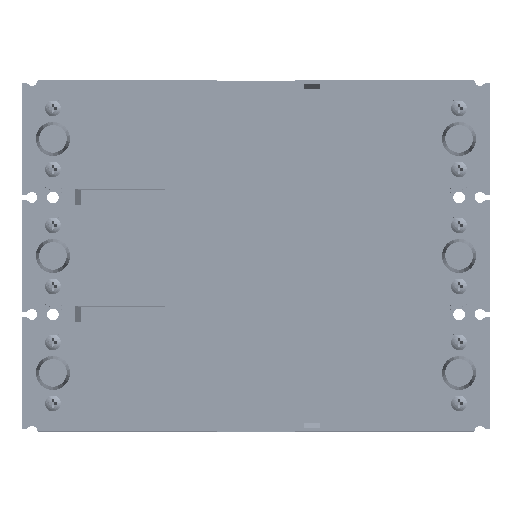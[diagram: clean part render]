
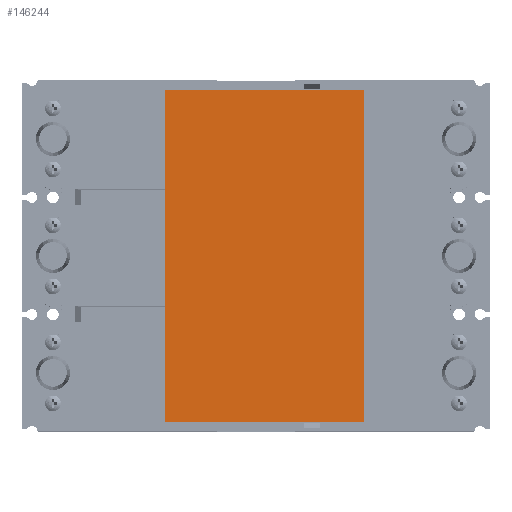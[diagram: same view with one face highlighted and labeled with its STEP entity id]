
A CAD part, top view. The second image highlights one B-rep face of the part: STEP entity #146244.
In plain terms, the highlighted planar face has unit normal (0, 0, 1) as drawn and (0, -1, 0) by its records, which use the part's own axes.
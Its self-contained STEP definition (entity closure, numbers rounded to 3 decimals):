
#146129=DIRECTION('',(0.,0.,-1.));
#146130=VECTOR('',#146129,59.5);
#146131=CARTESIAN_POINT('',(-99.5,0.,59.5));
#146132=LINE('',#146131,#146130);
#146137=DIRECTION('',(0.,0.,-1.));
#146138=VECTOR('',#146137,59.5);
#146139=CARTESIAN_POINT('',(-99.5,0.,0.));
#146140=LINE('',#146139,#146138);
#146145=DIRECTION('',(1.,0.,0.));
#146146=VECTOR('',#146145,199.);
#146147=CARTESIAN_POINT('',(-99.5,0.,-59.5));
#146148=LINE('',#146147,#146146);
#146153=DIRECTION('',(0.,0.,1.));
#146154=VECTOR('',#146153,59.5);
#146155=CARTESIAN_POINT('',(99.5,0.,-59.5));
#146156=LINE('',#146155,#146154);
#146161=DIRECTION('',(0.,0.,1.));
#146162=VECTOR('',#146161,59.5);
#146163=CARTESIAN_POINT('',(99.5,0.,0.));
#146164=LINE('',#146163,#146162);
#146169=DIRECTION('',(-1.,0.,0.));
#146170=VECTOR('',#146169,199.);
#146171=CARTESIAN_POINT('',(99.5,0.,59.5));
#146172=LINE('',#146171,#146170);
#146201=CARTESIAN_POINT('',(-99.5,0.,59.5));
#146202=CARTESIAN_POINT('',(-99.5,0.,0.));
#146203=VERTEX_POINT('',#146201);
#146204=VERTEX_POINT('',#146202);
#146205=CARTESIAN_POINT('',(99.5,0.,59.5));
#146206=VERTEX_POINT('',#146205);
#146207=CARTESIAN_POINT('',(99.5,0.,0.));
#146208=VERTEX_POINT('',#146207);
#146209=CARTESIAN_POINT('',(99.5,0.,-59.5));
#146210=VERTEX_POINT('',#146209);
#146211=CARTESIAN_POINT('',(-99.5,0.,-59.5));
#146212=VERTEX_POINT('',#146211);
#146225=CARTESIAN_POINT('',(0.,0.,0.));
#146226=DIRECTION('',(0.,1.,0.));
#146227=DIRECTION('',(1.,0.,0.));
#146228=AXIS2_PLACEMENT_3D('',#146225,#146226,#146227);
#146229=PLANE('',#146228);
#146231=ORIENTED_EDGE('',*,*,#146230,.F.);
#146233=ORIENTED_EDGE('',*,*,#146232,.F.);
#146235=ORIENTED_EDGE('',*,*,#146234,.F.);
#146237=ORIENTED_EDGE('',*,*,#146236,.F.);
#146239=ORIENTED_EDGE('',*,*,#146238,.F.);
#146241=ORIENTED_EDGE('',*,*,#146240,.F.);
#146242=EDGE_LOOP('',(#146231,#146233,#146235,#146237,#146239,#146241));
#146243=FACE_OUTER_BOUND('',#146242,.F.);
#146244=ADVANCED_FACE('',(#146243),#146229,.F.);
#146230=EDGE_CURVE('',#146203,#146204,#146132,.T.);
#146232=EDGE_CURVE('',#146206,#146203,#146172,.T.);
#146234=EDGE_CURVE('',#146208,#146206,#146164,.T.);
#146236=EDGE_CURVE('',#146210,#146208,#146156,.T.);
#146238=EDGE_CURVE('',#146212,#146210,#146148,.T.);
#146240=EDGE_CURVE('',#146204,#146212,#146140,.T.);
